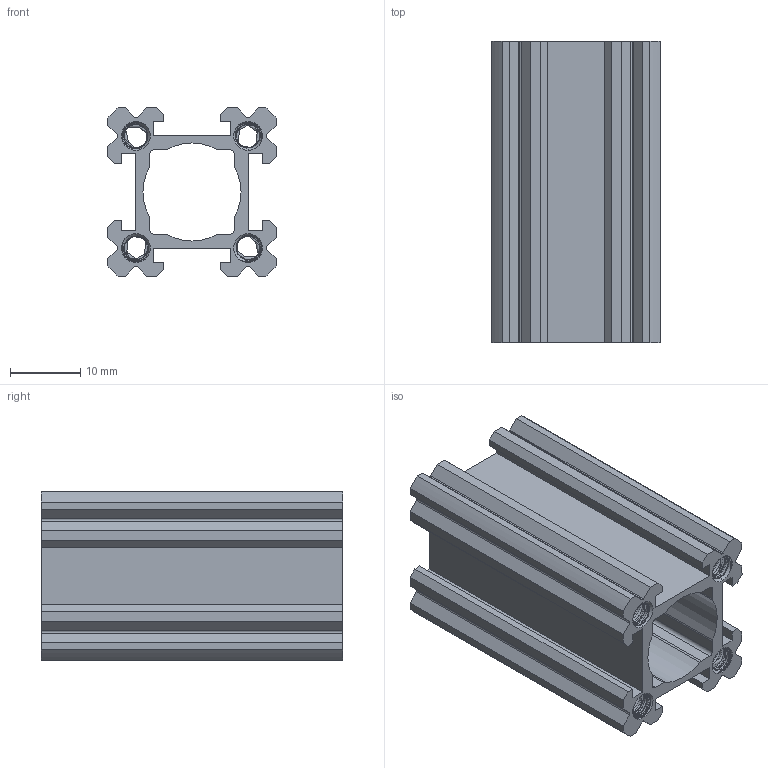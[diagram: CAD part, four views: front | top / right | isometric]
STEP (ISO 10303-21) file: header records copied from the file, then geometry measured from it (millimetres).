
FILE_DESCRIPTION (( 'STEP AP203' ), '1' );
FILE_NAME ('1109-0016-0043.STEP', '2017-05-15T21:43:20', ( '' ), ( '' ), 'SwSTEP 2.0', 'SolidWorks 2016', '' );
FILE_SCHEMA (( 'CONFIG_CONTROL_DESIGN' ));
Products named in the file (1): 1109-0016-0043
Bounding box: 24 x 43 x 24 mm (x, y, z)
Volume: 8368.6 mm3; surface area: 11620.7 mm2
Topology: 1 solids, 1 shells, 801 faces, 2389 edges, 1590 vertices
Faces by surface type: cylinder 679, plane 86, cone 20, bspline 16
Entity records: 49930 total; most frequent: CARTESIAN_POINT 32205, ORIENTED_EDGE 4778, DIRECTION 2751, EDGE_CURVE 2389, VERTEX_POINT 1590, LINE 919, VECTOR 919, AXIS2_PLACEMENT_3D 916
